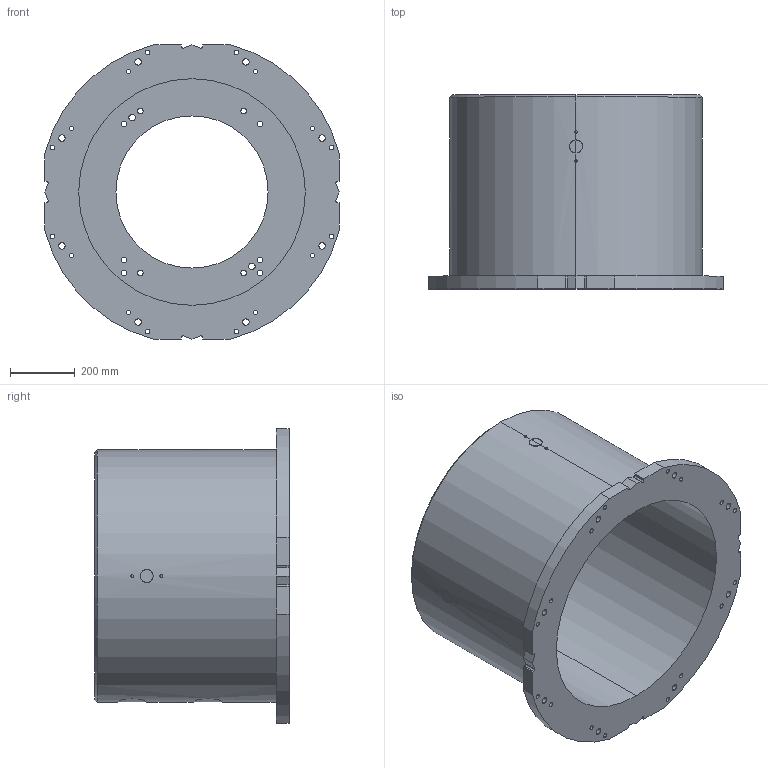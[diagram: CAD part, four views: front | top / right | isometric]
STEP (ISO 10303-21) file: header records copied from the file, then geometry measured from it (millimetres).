
FILE_DESCRIPTION (( 'STEP AP214' ), '1' );
FILE_NAME ('P-600.STEP', '2025-12-10T13:31:24', ( '' ), ( '' ), 'SwSTEP 2.0', 'SolidWorks 2022', '' );
FILE_SCHEMA (( 'AUTOMOTIVE_DESIGN' ));
Length unit declared in the file: millimetre
Products named in the file (1): P-600
Bounding box: 910 x 600 x 910 mm (x, y, z)
Volume: 71406624 mm3; surface area: 3853725.2 mm2
Topology: 1 solids, 1 shells, 203 faces, 565 edges, 376 vertices
Faces by surface type: cylinder 149, plane 28, bspline 24, cone 2
Entity records: 12485 total; most frequent: CARTESIAN_POINT 6354, ORIENTED_EDGE 1130, DIRECTION 969, EDGE_CURVE 565, AXIS2_PLACEMENT_3D 378, VERTEX_POINT 376, EDGE_LOOP 289, VECTOR 213
